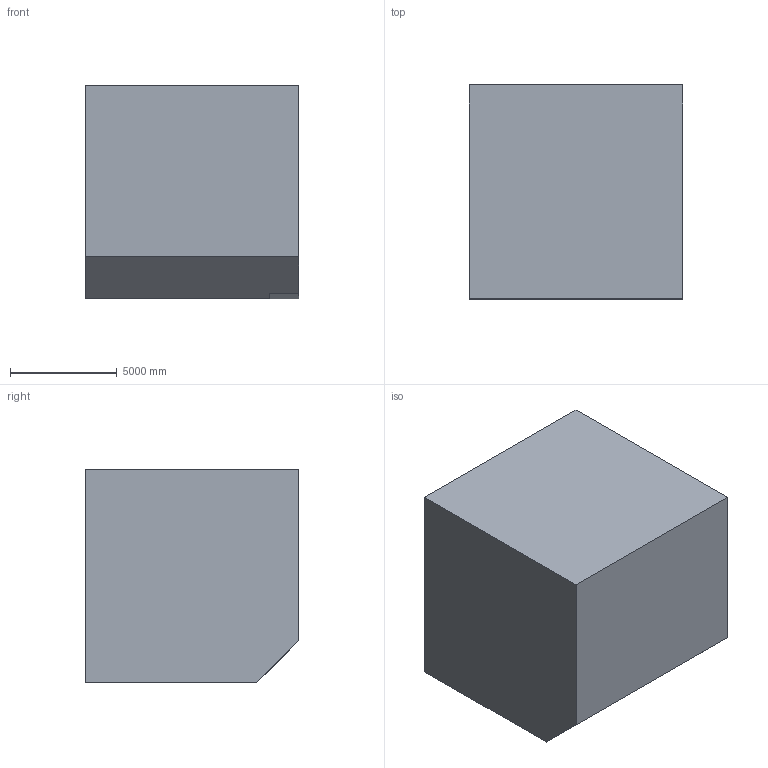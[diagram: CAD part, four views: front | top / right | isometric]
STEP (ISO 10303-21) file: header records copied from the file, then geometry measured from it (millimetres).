
FILE_DESCRIPTION (( 'STEP AP203' ), '1' );
FILE_NAME ('19.STEP', '2022-08-30T14:02:38', ( 'user' ), ( '' ), 'SwSTEP 2.0', 'SolidWorks 2021', '' );
FILE_SCHEMA (( 'CONFIG_CONTROL_DESIGN' ));
Length unit declared in the file: centimetre
Products named in the file (1): 19
Bounding box: 10000 x 10000 x 10000 mm (x, y, z)
Volume: 980509899292.3 mm3; surface area: 584493043.4 mm2
Topology: 1 solids, 1 shells, 9 faces, 21 edges, 14 vertices
Faces by surface type: plane 9
Entity records: 332 total; most frequent: CARTESIAN_POINT 45, ORIENTED_EDGE 42, DIRECTION 41, LINE 21, EDGE_CURVE 21, VECTOR 21, VERTEX_POINT 14, AXIS2_PLACEMENT_3D 10
